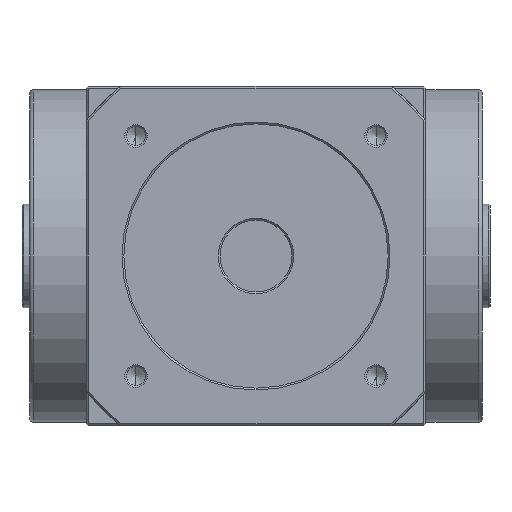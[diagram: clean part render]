
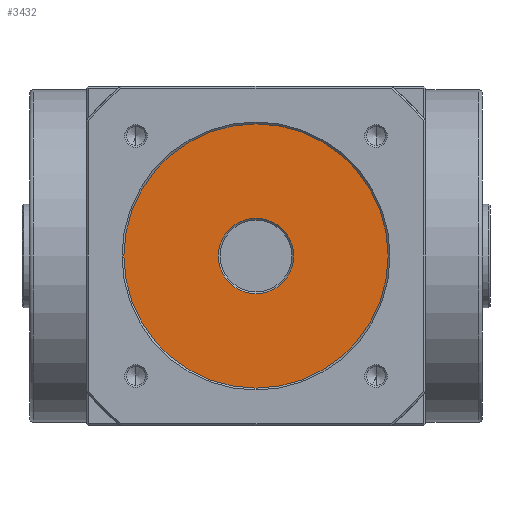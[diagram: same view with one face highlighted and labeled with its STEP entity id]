
A CAD part, front view. The second image highlights one B-rep face of the part: STEP entity #3432.
In plain terms, the highlighted planar face has unit normal (0, -1, 0).
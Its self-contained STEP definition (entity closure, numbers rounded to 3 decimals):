
#191 = ORIENTED_EDGE ( 'NONE', *, *, #392, .T. ) ;
#392 = EDGE_CURVE ( 'NONE', #2646, #3471, #4232, .T. ) ;
#492 = DIRECTION ( 'NONE',  ( 0., 0., -1. ) ) ;
#616 = CARTESIAN_POINT ( 'NONE',  ( 0., -148.5, 0. ) ) ;
#1255 = AXIS2_PLACEMENT_3D ( 'NONE', #5788, #2027, #7288 ) ;
#1338 = DIRECTION ( 'NONE',  ( 0., 0., -1. ) ) ;
#1347 = CARTESIAN_POINT ( 'NONE',  ( 0., -148.5, 10. ) ) ;
#1372 = DIRECTION ( 'NONE',  ( 0., 1., 0. ) ) ;
#1375 = DIRECTION ( 'NONE',  ( 0., -1., 0. ) ) ;
#1558 = VERTEX_POINT ( 'NONE', #4314 ) ;
#1864 = CARTESIAN_POINT ( 'NONE',  ( 0., -148.5, -10. ) ) ;
#1925 = PLANE ( 'NONE',  #1255 ) ;
#2027 = DIRECTION ( 'NONE',  ( 0., -1., 0. ) ) ;
#2047 = DIRECTION ( 'NONE',  ( 0., 0., -1. ) ) ;
#2189 = CIRCLE ( 'NONE', #6512, 35. ) ;
#2422 = CARTESIAN_POINT ( 'NONE',  ( 0., -148.5, -35. ) ) ;
#2615 = CIRCLE ( 'NONE', #3827, 10. ) ;
#2646 = VERTEX_POINT ( 'NONE', #1864 ) ;
#3432 = ADVANCED_FACE ( 'NONE', ( #3996, #6448 ), #1925, .T. ) ;
#3471 = VERTEX_POINT ( 'NONE', #1347 ) ;
#3827 = AXIS2_PLACEMENT_3D ( 'NONE', #5883, #1372, #6630 ) ;
#3996 = FACE_BOUND ( 'NONE', #9427, .T. ) ;
#4083 = VERTEX_POINT ( 'NONE', #2422 ) ;
#4232 = CIRCLE ( 'NONE', #4455, 10. ) ;
#4314 = CARTESIAN_POINT ( 'NONE',  ( 0., -148.5, 35. ) ) ;
#4455 = AXIS2_PLACEMENT_3D ( 'NONE', #9630, #7309, #1338 ) ;
#4781 = EDGE_CURVE ( 'NONE', #3471, #2646, #2615, .T. ) ;
#5709 = ORIENTED_EDGE ( 'NONE', *, *, #7155, .T. ) ;
#5788 = CARTESIAN_POINT ( 'NONE',  ( 0., -148.5, 0. ) ) ;
#5883 = CARTESIAN_POINT ( 'NONE',  ( 0., -148.5, 0. ) ) ;
#6011 = EDGE_CURVE ( 'NONE', #1558, #4083, #2189, .T. ) ;
#6448 = FACE_OUTER_BOUND ( 'NONE', #9788, .T. ) ;
#6512 = AXIS2_PLACEMENT_3D ( 'NONE', #616, #1375, #2047 ) ;
#6540 = AXIS2_PLACEMENT_3D ( 'NONE', #9553, #7240, #492 ) ;
#6630 = DIRECTION ( 'NONE',  ( 0., 0., -1. ) ) ;
#7155 = EDGE_CURVE ( 'NONE', #4083, #1558, #8071, .T. ) ;
#7240 = DIRECTION ( 'NONE',  ( 0., -1., 0. ) ) ;
#7288 = DIRECTION ( 'NONE',  ( 0., 0., -1. ) ) ;
#7309 = DIRECTION ( 'NONE',  ( 0., 1., 0. ) ) ;
#8013 = ORIENTED_EDGE ( 'NONE', *, *, #6011, .T. ) ;
#8071 = CIRCLE ( 'NONE', #6540, 35. ) ;
#8177 = ORIENTED_EDGE ( 'NONE', *, *, #4781, .T. ) ;
#9427 = EDGE_LOOP ( 'NONE', ( #191, #8177 ) ) ;
#9553 = CARTESIAN_POINT ( 'NONE',  ( 0., -148.5, 0. ) ) ;
#9630 = CARTESIAN_POINT ( 'NONE',  ( 0., -148.5, 0. ) ) ;
#9788 = EDGE_LOOP ( 'NONE', ( #5709, #8013 ) ) ;
